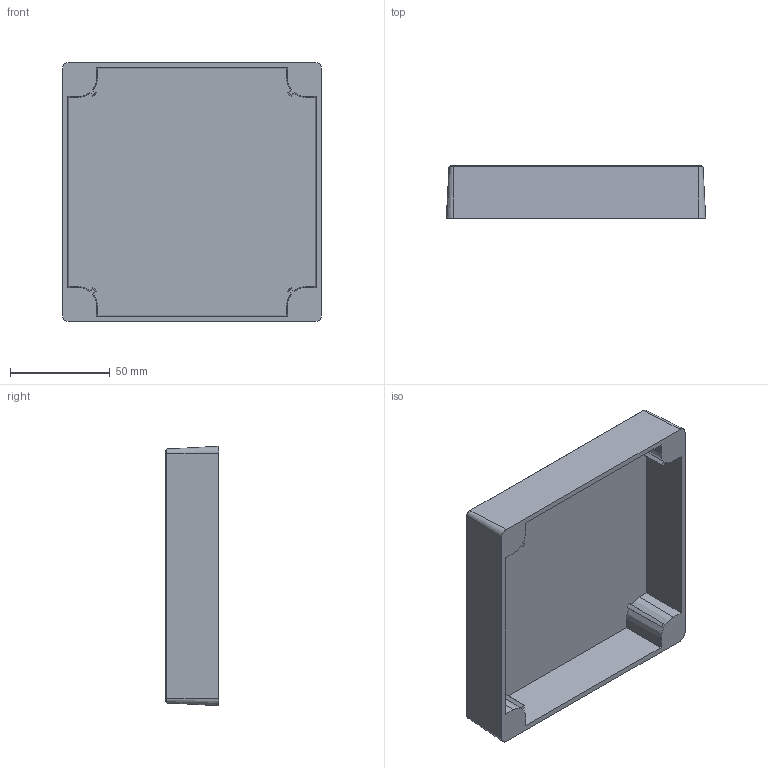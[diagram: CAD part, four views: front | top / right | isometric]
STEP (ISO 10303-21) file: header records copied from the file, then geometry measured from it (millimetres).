
FILE_DESCRIPTION (( 'STEP AP203' ), '1' );
FILE_NAME ('FIBOX_MNX12525C.STEP', '2005-06-30T06:51:50', ( ' ' ), ( ' ' ), 'SwSTEP 2.0', 'SolidWorks 2005143', '' );
FILE_SCHEMA (( 'CONFIG_CONTROL_DESIGN' ));
Length unit declared in the file: millimetre
Products named in the file (1): FIBOX_MNX12525C
Bounding box: 130 x 26.6 x 130 mm (x, y, z)
Volume: 78507.4 mm3; surface area: 59882.4 mm2
Topology: 1 solids, 1 shells, 72 faces, 184 edges, 120 vertices
Faces by surface type: plane 40, cone 20, cylinder 12
Entity records: 2277 total; most frequent: CARTESIAN_POINT 425, DIRECTION 374, ORIENTED_EDGE 368, EDGE_CURVE 184, AXIS2_PLACEMENT_3D 133, VERTEX_POINT 120, VECTOR 108, LINE 108
